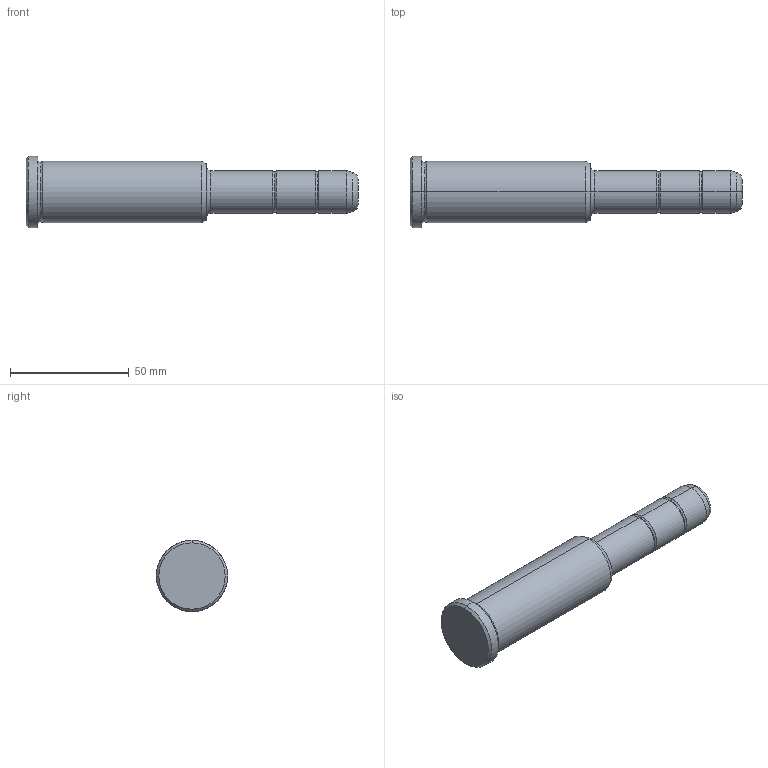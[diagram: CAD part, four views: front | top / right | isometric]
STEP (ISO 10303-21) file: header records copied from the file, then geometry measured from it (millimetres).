
FILE_DESCRIPTION(('CATIA V5 STEP Exchange'),'2;1');
FILE_NAME('C:\Users\Utente\Desktop\IO LAVORO\3D X SITO CF\X SITO\PLASTICA\351\351-18X76X140.stp','2021-08-27T11:18:20+00:00',('none'),('none'),'CATIA Version 5 Release 20 GA (IN-10)','CATIA V5 STEP AP203','none');
FILE_SCHEMA(('CONFIG_CONTROL_DESIGN'));
Length unit declared in the file: millimetre
Products named in the file (1): 351-18X76X140
Bounding box: 140 x 30 x 30 mm (x, y, z)
Volume: 57084.1 mm3; surface area: 11073.1 mm2
Topology: 1 solids, 1 shells, 36 faces, 102 edges, 70 vertices
Faces by surface type: torus 16, cylinder 10, cone 6, plane 4
Entity records: 1292 total; most frequent: CARTESIAN_POINT 321, ORIENTED_EDGE 204, DIRECTION 166, AXIS2_PLACEMENT_3D 115, EDGE_CURVE 102, CIRCLE 78, VERTEX_POINT 70, EDGE_LOOP 38
